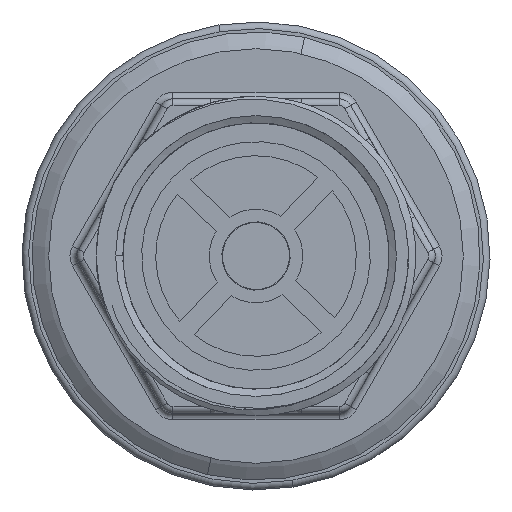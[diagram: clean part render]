
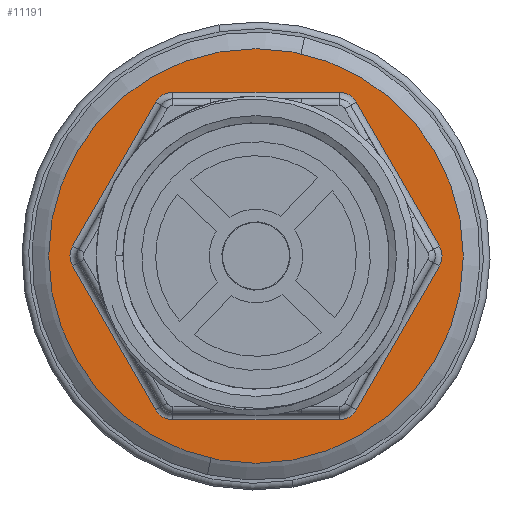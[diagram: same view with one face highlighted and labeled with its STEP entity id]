
A CAD part, front view. The second image highlights one B-rep face of the part: STEP entity #11191.
In plain terms, the highlighted planar face has unit normal (0, -1, 0).
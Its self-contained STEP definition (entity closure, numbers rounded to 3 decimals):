
#60 = DIRECTION ( 'NONE',  ( 1., 0., 0. ) ) ;
#864 = EDGE_CURVE ( 'NONE', #8895, #17570, #10973, .T. ) ;
#1186 = CARTESIAN_POINT ( 'NONE',  ( -15.011, -2., 23. ) ) ;
#1277 = VERTEX_POINT ( 'NONE', #13572 ) ;
#1315 = DIRECTION ( 'NONE',  ( 0.5, 0., 0.866 ) ) ;
#1404 = VECTOR ( 'NONE', #10382, 1000. ) ;
#1467 = CIRCLE ( 'NONE', #21462, 3. ) ;
#2062 = DIRECTION ( 'NONE',  ( 0., 1., 0. ) ) ;
#2228 = EDGE_CURVE ( 'NONE', #1277, #20353, #15182, .T. ) ;
#2601 = VERTEX_POINT ( 'NONE', #6682 ) ;
#3298 = CIRCLE ( 'NONE', #3738, 3. ) ;
#3569 = DIRECTION ( 'NONE',  ( 0., 1., 0. ) ) ;
#3738 = AXIS2_PLACEMENT_3D ( 'NONE', #7337, #5457, #11868 ) ;
#3797 = EDGE_CURVE ( 'NONE', #28260, #2601, #11991, .T. ) ;
#3995 = EDGE_CURVE ( 'NONE', #25734, #28260, #28744, .T. ) ;
#4319 = CARTESIAN_POINT ( 'NONE',  ( -15.011, -2., -23. ) ) ;
#4548 = DIRECTION ( 'NONE',  ( 0., 0., 1. ) ) ;
#4968 = CARTESIAN_POINT ( 'NONE',  ( 12.413, -2., 24.5 ) ) ;
#5386 = CARTESIAN_POINT ( 'NONE',  ( 31., -2., 0. ) ) ;
#5457 = DIRECTION ( 'NONE',  ( 0., 1., 0. ) ) ;
#5688 = EDGE_CURVE ( 'NONE', #14128, #23387, #24059, .T. ) ;
#5790 = ORIENTED_EDGE ( 'NONE', *, *, #23597, .F. ) ;
#5801 = FACE_BOUND ( 'NONE', #25627, .T. ) ;
#6146 = CARTESIAN_POINT ( 'NONE',  ( 24.826, -2., 0. ) ) ;
#6219 = ORIENTED_EDGE ( 'NONE', *, *, #19679, .T. ) ;
#6224 = ORIENTED_EDGE ( 'NONE', *, *, #5688, .T. ) ;
#6451 = DIRECTION ( 'NONE',  ( 0.5, 0., -0.866 ) ) ;
#6458 = AXIS2_PLACEMENT_3D ( 'NONE', #16893, #25759, #12650 ) ;
#6682 = CARTESIAN_POINT ( 'NONE',  ( -12.413, -2., -24.5 ) ) ;
#7296 = ORIENTED_EDGE ( 'NONE', *, *, #22819, .F. ) ;
#7337 = CARTESIAN_POINT ( 'NONE',  ( 12.413, -2., 21.5 ) ) ;
#7383 = CARTESIAN_POINT ( 'NONE',  ( 12.413, -2., -24.5 ) ) ;
#7410 = FACE_OUTER_BOUND ( 'NONE', #28766, .T. ) ;
#7651 = VERTEX_POINT ( 'NONE', #7977 ) ;
#7977 = CARTESIAN_POINT ( 'NONE',  ( 0., -2., -31. ) ) ;
#8125 = ORIENTED_EDGE ( 'NONE', *, *, #16280, .T. ) ;
#8851 = AXIS2_PLACEMENT_3D ( 'NONE', #5386, #14271, #23144 ) ;
#8895 = VERTEX_POINT ( 'NONE', #25109 ) ;
#8919 = CARTESIAN_POINT ( 'NONE',  ( -12.413, -2., 21.5 ) ) ;
#9918 = EDGE_CURVE ( 'NONE', #23387, #13665, #11351, .T. ) ;
#10140 = CARTESIAN_POINT ( 'NONE',  ( -24.826, -2., 0. ) ) ;
#10382 = DIRECTION ( 'NONE',  ( -0.5, 0., -0.866 ) ) ;
#10786 = EDGE_CURVE ( 'NONE', #13665, #1277, #21123, .T. ) ;
#10847 = DIRECTION ( 'NONE',  ( 0., 1., 0. ) ) ;
#10973 = LINE ( 'NONE', #23788, #19277 ) ;
#11191 = ADVANCED_FACE ( 'NONE', ( #5801, #7410 ), #16717, .F. ) ;
#11323 = CARTESIAN_POINT ( 'NONE',  ( -27.424, -2., -1.5 ) ) ;
#11351 = CIRCLE ( 'NONE', #26674, 3. ) ;
#11868 = DIRECTION ( 'NONE',  ( 0., 0., 1. ) ) ;
#11991 = LINE ( 'NONE', #22923, #13899 ) ;
#12326 = DIRECTION ( 'NONE',  ( 0., 0., 1. ) ) ;
#12650 = DIRECTION ( 'NONE',  ( 0., 0., 1. ) ) ;
#12805 = CIRCLE ( 'NONE', #23982, 3. ) ;
#13029 = CARTESIAN_POINT ( 'NONE',  ( -12.413, -2., -21.5 ) ) ;
#13572 = CARTESIAN_POINT ( 'NONE',  ( -15.011, -2., 23. ) ) ;
#13661 = EDGE_CURVE ( 'NONE', #17570, #18356, #1467, .T. ) ;
#13665 = VERTEX_POINT ( 'NONE', #15032 ) ;
#13899 = VECTOR ( 'NONE', #20867, 1000. ) ;
#13913 = CIRCLE ( 'NONE', #23622, 31. ) ;
#14128 = VERTEX_POINT ( 'NONE', #4319 ) ;
#14271 = DIRECTION ( 'NONE',  ( 0., 1., 0. ) ) ;
#14401 = CIRCLE ( 'NONE', #6458, 31. ) ;
#14527 = CARTESIAN_POINT ( 'NONE',  ( 12.413, -2., 24.5 ) ) ;
#14989 = VECTOR ( 'NONE', #60, 1000. ) ;
#15032 = CARTESIAN_POINT ( 'NONE',  ( -27.424, -2., 1.5 ) ) ;
#15182 = CIRCLE ( 'NONE', #19322, 3. ) ;
#15472 = DIRECTION ( 'NONE',  ( 0., 1., 0. ) ) ;
#15626 = ORIENTED_EDGE ( 'NONE', *, *, #28470, .T. ) ;
#15699 = CARTESIAN_POINT ( 'NONE',  ( 15.011, -2., -23. ) ) ;
#15795 = VECTOR ( 'NONE', #22036, 1000. ) ;
#16209 = AXIS2_PLACEMENT_3D ( 'NONE', #25921, #2062, #21729 ) ;
#16280 = EDGE_CURVE ( 'NONE', #20353, #19643, #25933, .T. ) ;
#16479 = VERTEX_POINT ( 'NONE', #28725 ) ;
#16717 = PLANE ( 'NONE',  #8851 ) ;
#16893 = CARTESIAN_POINT ( 'NONE',  ( 0., -2., 0. ) ) ;
#17072 = CARTESIAN_POINT ( 'NONE',  ( 15.011, -2., -23. ) ) ;
#17547 = DIRECTION ( 'NONE',  ( 0., 0., 1. ) ) ;
#17570 = VERTEX_POINT ( 'NONE', #17787 ) ;
#17589 = CARTESIAN_POINT ( 'NONE',  ( -12.413, -2., 24.5 ) ) ;
#17787 = CARTESIAN_POINT ( 'NONE',  ( 27.424, -2., 1.5 ) ) ;
#17932 = DIRECTION ( 'NONE',  ( 0., 1., 0. ) ) ;
#17978 = CARTESIAN_POINT ( 'NONE',  ( 0., -2., 0. ) ) ;
#18356 = VERTEX_POINT ( 'NONE', #23000 ) ;
#18822 = ORIENTED_EDGE ( 'NONE', *, *, #864, .T. ) ;
#19114 = LINE ( 'NONE', #17072, #1404 ) ;
#19277 = VECTOR ( 'NONE', #6451, 1000. ) ;
#19322 = AXIS2_PLACEMENT_3D ( 'NONE', #8919, #17932, #4548 ) ;
#19643 = VERTEX_POINT ( 'NONE', #14527 ) ;
#19679 = EDGE_CURVE ( 'NONE', #2601, #14128, #12805, .T. ) ;
#19799 = ORIENTED_EDGE ( 'NONE', *, *, #2228, .T. ) ;
#20353 = VERTEX_POINT ( 'NONE', #17589 ) ;
#20379 = ORIENTED_EDGE ( 'NONE', *, *, #28623, .T. ) ;
#20867 = DIRECTION ( 'NONE',  ( -1., 0., 0. ) ) ;
#21123 = LINE ( 'NONE', #1186, #21369 ) ;
#21369 = VECTOR ( 'NONE', #1315, 1000. ) ;
#21462 = AXIS2_PLACEMENT_3D ( 'NONE', #6146, #15472, #28401 ) ;
#21729 = DIRECTION ( 'NONE',  ( 0., 0., 1. ) ) ;
#22036 = DIRECTION ( 'NONE',  ( -0.5, 0., 0.866 ) ) ;
#22819 = EDGE_CURVE ( 'NONE', #16479, #7651, #13913, .T. ) ;
#22923 = CARTESIAN_POINT ( 'NONE',  ( -12.413, -2., -24.5 ) ) ;
#23000 = CARTESIAN_POINT ( 'NONE',  ( 27.424, -2., -1.5 ) ) ;
#23144 = DIRECTION ( 'NONE',  ( 0., 0., 1. ) ) ;
#23387 = VERTEX_POINT ( 'NONE', #11323 ) ;
#23597 = EDGE_CURVE ( 'NONE', #7651, #16479, #14401, .T. ) ;
#23622 = AXIS2_PLACEMENT_3D ( 'NONE', #17978, #24706, #25117 ) ;
#23788 = CARTESIAN_POINT ( 'NONE',  ( 27.424, -2., 1.5 ) ) ;
#23982 = AXIS2_PLACEMENT_3D ( 'NONE', #13029, #10847, #17547 ) ;
#24059 = LINE ( 'NONE', #24210, #15795 ) ;
#24210 = CARTESIAN_POINT ( 'NONE',  ( -27.424, -2., -1.5 ) ) ;
#24706 = DIRECTION ( 'NONE',  ( 0., 1., 0. ) ) ;
#25109 = CARTESIAN_POINT ( 'NONE',  ( 15.011, -2., 23. ) ) ;
#25117 = DIRECTION ( 'NONE',  ( 0., 0., 1. ) ) ;
#25321 = ORIENTED_EDGE ( 'NONE', *, *, #3797, .T. ) ;
#25391 = ORIENTED_EDGE ( 'NONE', *, *, #9918, .T. ) ;
#25416 = ORIENTED_EDGE ( 'NONE', *, *, #13661, .T. ) ;
#25627 = EDGE_LOOP ( 'NONE', ( #18822, #25416, #15626, #25829, #25321, #6219, #6224, #25391, #27557, #19799, #8125, #20379 ) ) ;
#25734 = VERTEX_POINT ( 'NONE', #15699 ) ;
#25759 = DIRECTION ( 'NONE',  ( 0., 1., 0. ) ) ;
#25829 = ORIENTED_EDGE ( 'NONE', *, *, #3995, .T. ) ;
#25921 = CARTESIAN_POINT ( 'NONE',  ( 12.413, -2., -21.5 ) ) ;
#25933 = LINE ( 'NONE', #4968, #14989 ) ;
#26674 = AXIS2_PLACEMENT_3D ( 'NONE', #10140, #3569, #12326 ) ;
#27557 = ORIENTED_EDGE ( 'NONE', *, *, #10786, .T. ) ;
#28260 = VERTEX_POINT ( 'NONE', #7383 ) ;
#28401 = DIRECTION ( 'NONE',  ( 0., 0., 1. ) ) ;
#28470 = EDGE_CURVE ( 'NONE', #18356, #25734, #19114, .T. ) ;
#28623 = EDGE_CURVE ( 'NONE', #19643, #8895, #3298, .T. ) ;
#28725 = CARTESIAN_POINT ( 'NONE',  ( 0., -2., 31. ) ) ;
#28744 = CIRCLE ( 'NONE', #16209, 3. ) ;
#28766 = EDGE_LOOP ( 'NONE', ( #7296, #5790 ) ) ;
